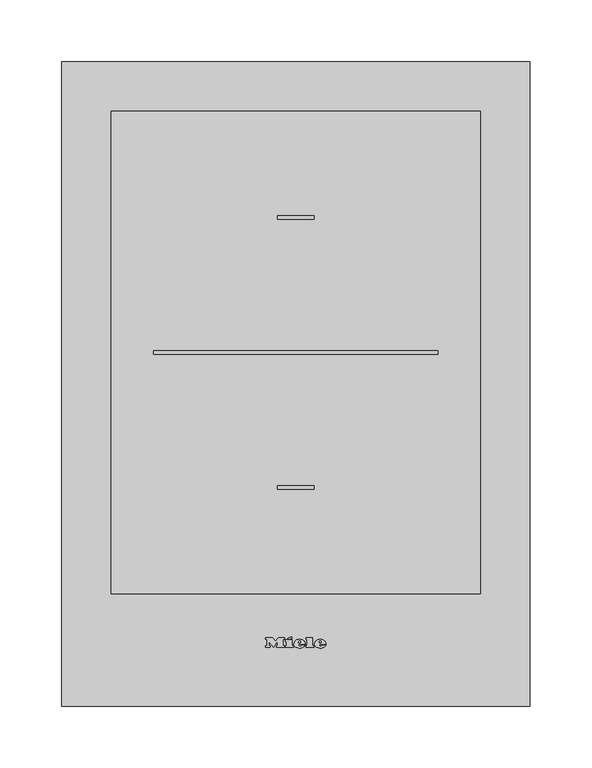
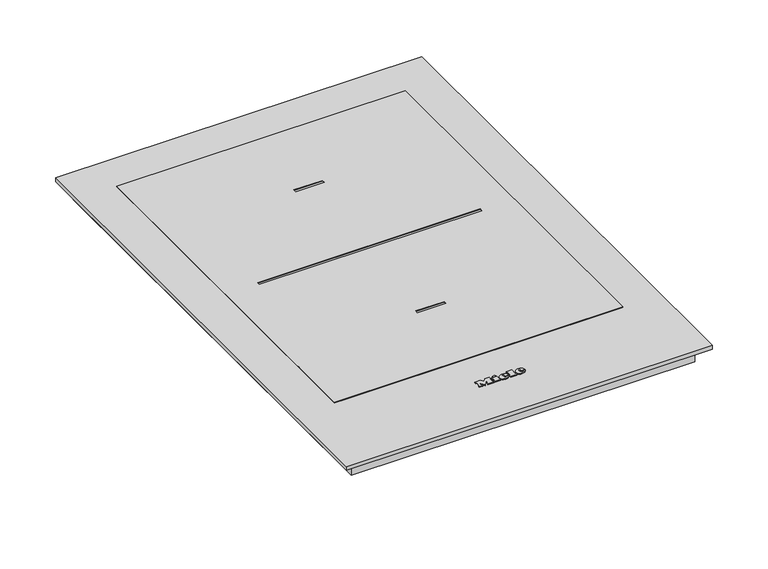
"""IFC4 building model written with IfcOpenShell, lengths in millimetres: proxy geometry, 11073340_CN_CS7612FL : 27761250_CN_11073340_CS7612FL."""

from ifc_helpers import new_model, si_unit, point, frame, frame_2d, origin, origin_with_axes, place, context, project, spatial, polyline, circle_curve, ellipse_curve, trimmed, segment, composite_curve, outline, extrude, source, transform, mapped, element, save
from ifc_brep_helpers import plane_surface, cylinder_surface, revolved_surface, extruded_surface, advanced_brep


def specialty_equipment_ac4bd3e9(model_context):
    return source(origin(), model_context, "Body", "SolidModel", [
        advanced_brep(
        [(19.06, 49.1959995, 4.9919765), (19.06, 50.0039992, 4.9925904), (24.412, 50.0039992, 4.9925904), (15.1, 50.0039992, 4.9925904), (17.3, 47.3, 4.990536), (24.276, 49.1959995, 4.9919765), (21.86, 49.1959995, 4.9919765), (19.956, 48.2999997, 4.9912958), (19.06, 51.0279989, 4.9933684), (19.06, 51.8999987, 4.9940309), (20.428, 51.8999987, 4.9940309), (20.428, 51.0279989, 4.9933684), (19.06, 49.1967592, 3.9919768), (19.956, 48.3007595, 3.9912961), (21.86, 49.1967592, 3.9919768), (24.276, 49.1967592, 3.9919768), (17.3, 47.3007598, 3.9905363), (15.1, 50.004759, 3.9925907), (24.412, 50.004759, 3.9925907), (19.06, 50.004759, 3.9925907), (19.06, 51.0287587, 3.9933687), (20.428, 51.0287587, 3.9933687), (20.428, 51.9007584, 3.9940312), (19.06, 51.9007584, 3.9940312)],
        [
            (0, 1),
            (1, 2),
            (2, 3, ellipse_curve(frame((19.756, 50.0039992, 4.9925904), z_axis=(0.0, -0.0007597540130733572, 0.9999997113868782), x_axis=(-1.0, 0.0, 0.0)), 4.656, 3.848)),
            (3, 4, circle_curve(frame((18.1960436, 50.2759991, 4.9927971), z_axis=(0.0, -0.0007597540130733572, 0.9999997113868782), x_axis=(0.0, -0.9999997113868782, -0.0007597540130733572)), 3.1079688)),
            (4, 5, circle_curve(frame((19.6627936, 52.3879985, 4.9944017), z_axis=(0.0, -0.0007597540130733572, 0.9999997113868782), x_axis=(0.0, -0.9999997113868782, -0.0007597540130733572)), 5.6098607)),
            (5, 6),
            (6, 7, circle_curve(frame((20.3470588, 49.9399992, 4.9925418), z_axis=(0.0, 0.0007597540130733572, -0.9999997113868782), x_axis=(0.0, -0.9999997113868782, -0.0007597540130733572)), 1.6859795)),
            (7, 0, circle_curve(frame((19.956, 49.1959995, 4.9919765), z_axis=(0.0, 0.0007597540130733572, -0.9999997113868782), x_axis=(0.0, -0.9999997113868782, -0.0007597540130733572)), 0.896)),
            (8, 9),
            (9, 10, circle_curve(frame((19.744, 51.8999987, 4.9940309), z_axis=(0.0, 0.0007597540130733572, -0.9999997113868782), x_axis=(0.0, -0.9999997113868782, -0.0007597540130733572)), 0.684)),
            (10, 11),
            (11, 8),
            (12, 13, circle_curve(frame((19.956, 49.1967592, 3.9919768), z_axis=(0.0, -0.0007597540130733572, 0.9999997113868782), x_axis=(0.0, -0.9999997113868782, -0.0007597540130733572)), 0.896)),
            (13, 14, circle_curve(frame((20.3470588, 49.940759, 3.9925421), z_axis=(0.0, -0.0007597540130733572, 0.9999997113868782), x_axis=(0.0, -0.9999997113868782, -0.0007597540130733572)), 1.6859795)),
            (14, 15),
            (15, 16, circle_curve(frame((19.6627936, 52.3887583, 3.994402), z_axis=(0.0, 0.0007597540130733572, -0.9999997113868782), x_axis=(0.0, -0.9999997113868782, -0.0007597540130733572)), 5.6098607)),
            (16, 17, circle_curve(frame((18.1960436, 50.2767589, 3.9927974), z_axis=(0.0, 0.0007597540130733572, -0.9999997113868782), x_axis=(0.0, -0.9999997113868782, -0.0007597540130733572)), 3.1079688)),
            (17, 18, ellipse_curve(frame((19.756, 50.004759, 3.9925907), z_axis=(0.0, 0.0007597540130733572, -0.9999997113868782), x_axis=(-1.0, 0.0, 0.0)), 4.656, 3.848)),
            (18, 19),
            (19, 12),
            (20, 21),
            (21, 22),
            (22, 23, circle_curve(frame((19.744, 51.9007584, 3.9940312), z_axis=(0.0, -0.0007597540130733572, 0.9999997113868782), x_axis=(0.0, -0.9999997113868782, -0.0007597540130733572)), 0.684)),
            (23, 20),
            (0, 12),
            (19, 1),
            (18, 2),
            (5, 15),
            (14, 6),
            (17, 3),
            (13, 7),
            (16, 4),
            (8, 20),
            (23, 9),
            (22, 10),
            (21, 11),
        ],
        [
            plane_surface(frame((19.06, 50.0039992, 4.9925904), z_axis=(0.0, -0.0007597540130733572, 0.9999997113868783), x_axis=(0.0, 0.9999997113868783, 0.0007597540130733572))),
            plane_surface(frame((19.06, 50.004759, 3.9925907), z_axis=(0.0, 0.0007597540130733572, -0.9999997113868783), x_axis=(0.0, -0.9999997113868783, -0.0007597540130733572))),
            plane_surface(frame((19.06, 49.1959995, 4.9919765), z_axis=(1.0, 0.0, 0.0), x_axis=(0.0, 0.0007597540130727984, -0.9999997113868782))),
            plane_surface(frame((19.06, 50.0039992, 4.9925904), z_axis=(0.0, -0.9999997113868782, -0.0007597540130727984), x_axis=(0.0, 0.0007597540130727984, -0.9999997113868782))),
            plane_surface(frame((24.276, 49.1959995, 4.9919765), z_axis=(0.0, 0.9999997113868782, 0.0007597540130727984), x_axis=(0.0, 0.0007597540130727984, -0.9999997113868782))),
            extruded_surface(trimmed(ellipse_curve(frame((19.756, 50.0055187, 2.992591), z_axis=(0.0, -0.0007597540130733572, 0.9999997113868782), x_axis=(-1.0, 0.0, 0.0)), 4.656, 3.848), [point((24.412, 50.0055187, 2.992591))], [point((15.1, 50.0055187, 2.992591))], True, "CARTESIAN"), (0.0, -0.0007597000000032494, 0.9999997), 0.9999999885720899),
            revolved_surface(polyline([(20.3470588, 48.25477998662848, 3.9912611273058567), (20.3470588, 48.25402023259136, 4.991260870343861)]), (20.3470588, 49.940759, 3.9925421), (0.0, 0.0007597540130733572, -0.9999997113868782)),
            revolved_surface(polyline([(19.956, 48.30075945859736, 3.9912960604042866), (19.956, 48.29999970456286, 4.991295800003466)]), (19.956, 49.1967592, 3.9919768), (0.0, 0.0007597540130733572, -0.9999997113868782)),
            cylinder_surface(frame((18.1960436, 50.2767589, 3.9927974), z_axis=(0.0, -0.0007597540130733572, 0.9999997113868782), x_axis=(0.0, -0.9999997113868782, -0.0007597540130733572)), 3.1079688),
            cylinder_surface(frame((19.6627936, 52.3887583, 3.994402), z_axis=(0.0, -0.0007597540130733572, 0.9999997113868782), x_axis=(0.0, -0.9999997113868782, -0.0007597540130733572)), 5.6098607),
            plane_surface(frame((19.06, 51.0279989, 4.9933684), z_axis=(1.0, 0.0, 0.0), x_axis=(0.0, 0.0007597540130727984, -0.9999997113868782))),
            revolved_surface(polyline([(19.744, 51.21675859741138, 3.9935115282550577), (19.744, 51.215998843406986, 4.993511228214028)]), (19.744, 51.9007584, 3.9940312), (0.0, 0.0007597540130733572, -0.9999997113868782)),
            plane_surface(frame((20.428, 51.8999987, 4.9940309), z_axis=(-1.0, 0.0, 0.0), x_axis=(0.0, 0.0007597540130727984, -0.9999997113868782))),
            plane_surface(frame((20.428, 51.0279989, 4.9933684), z_axis=(0.0, 0.9999997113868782, 0.0007597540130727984), x_axis=(0.0, 0.0007597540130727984, -0.9999997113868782))),
        ],
        [
            (0, [[1, 2, 3, 4, 5, 6, 7, 8], [9, 10, 11, 12]]),
            (1, [[13, 14, 15, 16, 17, 18, 19, 20], [21, 22, 23, 24]]),
            (2, [[-1, 25, -20, 26]]),
            (3, [[-2, -26, -19, 27]]),
            (4, [[-6, 28, -15, 29]]),
            (5, [[-3, -27, -18, 30]]),
            (6, [[-7, -29, -14, 31]]),
            (7, [[-8, -31, -13, -25]]),
            (8, [[-4, -30, -17, 32]]),
            (9, [[-5, -32, -16, -28]]),
            (10, [[-9, 33, -24, 34]]),
            (11, [[-10, -34, -23, 35]]),
            (12, [[-11, -35, -22, 36]]),
            (13, [[-12, -36, -21, -33]]),
        ],
    ),
        advanced_brep(
        [(2.364, 49.1959995, 4.9919765), (2.364, 50.0039992, 4.9925904), (7.716, 50.0039992, 4.9925904), (-1.596, 50.0039992, 4.9925904), (0.604, 47.3, 4.990536), (7.58, 49.1959995, 4.9919765), (5.164, 49.1959995, 4.9919765), (3.26, 48.2999997, 4.9912958), (2.364, 51.0279989, 4.9933684), (2.364, 51.8999987, 4.9940309), (3.732, 51.8999987, 4.9940309), (3.732, 51.0279989, 4.9933684), (2.364, 49.1967592, 3.9919768), (3.26, 48.3007595, 3.9912961), (5.164, 49.1967592, 3.9919768), (7.58, 49.1967592, 3.9919768), (0.604, 47.3007598, 3.9905363), (-1.596, 50.004759, 3.9925907), (7.716, 50.004759, 3.9925907), (2.364, 50.004759, 3.9925907), (2.364, 51.0287587, 3.9933687), (3.732, 51.0287587, 3.9933687), (3.732, 51.9007584, 3.9940312), (2.364, 51.9007584, 3.9940312)],
        [
            (0, 1),
            (1, 2),
            (2, 3, ellipse_curve(frame((3.06, 50.0039992, 4.9925904), z_axis=(0.0, -0.0007597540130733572, 0.9999997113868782), x_axis=(-1.0, 0.0, 0.0)), 4.656, 3.848)),
            (3, 4, circle_curve(frame((1.5000436, 50.2759991, 4.9927971), z_axis=(0.0, -0.0007597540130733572, 0.9999997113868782), x_axis=(0.0, -0.9999997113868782, -0.0007597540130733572)), 3.1079688)),
            (4, 5, circle_curve(frame((2.9667936, 52.3879985, 4.9944017), z_axis=(0.0, -0.0007597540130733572, 0.9999997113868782), x_axis=(0.0, -0.9999997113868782, -0.0007597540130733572)), 5.6098607)),
            (5, 6),
            (6, 7, circle_curve(frame((3.6510588, 49.9399992, 4.9925418), z_axis=(0.0, 0.0007597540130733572, -0.9999997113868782), x_axis=(0.0, -0.9999997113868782, -0.0007597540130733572)), 1.6859795)),
            (7, 0, circle_curve(frame((3.26, 49.1959995, 4.9919765), z_axis=(0.0, 0.0007597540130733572, -0.9999997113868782), x_axis=(0.0, -0.9999997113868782, -0.0007597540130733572)), 0.896)),
            (8, 9),
            (9, 10, circle_curve(frame((3.048, 51.8999987, 4.9940309), z_axis=(0.0, 0.0007597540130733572, -0.9999997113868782), x_axis=(0.0, -0.9999997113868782, -0.0007597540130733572)), 0.684)),
            (10, 11),
            (11, 8),
            (12, 13, circle_curve(frame((3.26, 49.1967592, 3.9919768), z_axis=(0.0, -0.0007597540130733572, 0.9999997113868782), x_axis=(0.0, -0.9999997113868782, -0.0007597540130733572)), 0.896)),
            (13, 14, circle_curve(frame((3.6510588, 49.940759, 3.9925421), z_axis=(0.0, -0.0007597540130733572, 0.9999997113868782), x_axis=(0.0, -0.9999997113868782, -0.0007597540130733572)), 1.6859795)),
            (14, 15),
            (15, 16, circle_curve(frame((2.9667936, 52.3887583, 3.994402), z_axis=(0.0, 0.0007597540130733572, -0.9999997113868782), x_axis=(0.0, -0.9999997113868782, -0.0007597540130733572)), 5.6098607)),
            (16, 17, circle_curve(frame((1.5000436, 50.2767589, 3.9927974), z_axis=(0.0, 0.0007597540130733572, -0.9999997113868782), x_axis=(0.0, -0.9999997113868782, -0.0007597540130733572)), 3.1079688)),
            (17, 18, ellipse_curve(frame((3.06, 50.004759, 3.9925907), z_axis=(0.0, 0.0007597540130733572, -0.9999997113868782), x_axis=(-1.0, 0.0, 0.0)), 4.656, 3.848)),
            (18, 19),
            (19, 12),
            (20, 21),
            (21, 22),
            (22, 23, circle_curve(frame((3.048, 51.9007584, 3.9940312), z_axis=(0.0, -0.0007597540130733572, 0.9999997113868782), x_axis=(0.0, -0.9999997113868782, -0.0007597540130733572)), 0.684)),
            (23, 20),
            (0, 12),
            (19, 1),
            (18, 2),
            (5, 15),
            (14, 6),
            (17, 3),
            (13, 7),
            (16, 4),
            (8, 20),
            (23, 9),
            (22, 10),
            (21, 11),
        ],
        [
            plane_surface(frame((2.364, 50.0039992, 4.9925904), z_axis=(0.0, -0.0007597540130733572, 0.9999997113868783), x_axis=(0.0, 0.9999997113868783, 0.0007597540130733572))),
            plane_surface(frame((2.364, 50.004759, 3.9925907), z_axis=(0.0, 0.0007597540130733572, -0.9999997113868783), x_axis=(0.0, -0.9999997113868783, -0.0007597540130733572))),
            plane_surface(frame((2.364, 49.1959995, 4.9919765), z_axis=(1.0, 0.0, 0.0), x_axis=(0.0, 0.0007597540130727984, -0.9999997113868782))),
            plane_surface(frame((2.364, 50.0039992, 4.9925904), z_axis=(0.0, -0.9999997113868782, -0.0007597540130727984), x_axis=(0.0, 0.0007597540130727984, -0.9999997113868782))),
            plane_surface(frame((7.58, 49.1959995, 4.9919765), z_axis=(0.0, 0.9999997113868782, 0.0007597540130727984), x_axis=(0.0, 0.0007597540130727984, -0.9999997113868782))),
            extruded_surface(trimmed(ellipse_curve(frame((3.06, 50.0055187, 2.992591), z_axis=(0.0, -0.0007597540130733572, 0.9999997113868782), x_axis=(-1.0, 0.0, 0.0)), 4.656, 3.848), [point((7.716, 50.0055187, 2.992591))], [point((-1.596, 50.0055187, 2.992591))], True, "CARTESIAN"), (0.0, -0.0007597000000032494, 0.9999997), 0.9999999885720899),
            revolved_surface(polyline([(3.6510588, 48.25477998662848, 3.9912611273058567), (3.6510588, 48.25402023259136, 4.991260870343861)]), (3.6510588, 49.940759, 3.9925421), (0.0, 0.0007597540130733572, -0.9999997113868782)),
            revolved_surface(polyline([(3.26, 48.30075945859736, 3.9912960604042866), (3.26, 48.29999970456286, 4.991295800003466)]), (3.26, 49.1967592, 3.9919768), (0.0, 0.0007597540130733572, -0.9999997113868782)),
            cylinder_surface(frame((1.5000436, 50.2767589, 3.9927974), z_axis=(0.0, -0.0007597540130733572, 0.9999997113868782), x_axis=(0.0, -0.9999997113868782, -0.0007597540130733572)), 3.1079688),
            cylinder_surface(frame((2.9667936, 52.3887583, 3.994402), z_axis=(0.0, -0.0007597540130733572, 0.9999997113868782), x_axis=(0.0, -0.9999997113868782, -0.0007597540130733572)), 5.6098607),
            plane_surface(frame((2.364, 51.0279989, 4.9933684), z_axis=(1.0, 0.0, 0.0), x_axis=(0.0, 0.0007597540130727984, -0.9999997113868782))),
            revolved_surface(polyline([(3.048, 51.21675859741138, 3.9935115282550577), (3.048, 51.215998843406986, 4.993511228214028)]), (3.048, 51.9007584, 3.9940312), (0.0, 0.0007597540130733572, -0.9999997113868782)),
            plane_surface(frame((3.732, 51.8999987, 4.9940309), z_axis=(-1.0, 0.0, 0.0), x_axis=(0.0, 0.0007597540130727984, -0.9999997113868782))),
            plane_surface(frame((3.732, 51.0279989, 4.9933684), z_axis=(0.0, 0.9999997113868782, 0.0007597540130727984), x_axis=(0.0, 0.0007597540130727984, -0.9999997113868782))),
        ],
        [
            (0, [[1, 2, 3, 4, 5, 6, 7, 8], [9, 10, 11, 12]]),
            (1, [[13, 14, 15, 16, 17, 18, 19, 20], [21, 22, 23, 24]]),
            (2, [[-1, 25, -20, 26]]),
            (3, [[-2, -26, -19, 27]]),
            (4, [[-6, 28, -15, 29]]),
            (5, [[-3, -27, -18, 30]]),
            (6, [[-7, -29, -14, 31]]),
            (7, [[-8, -31, -13, -25]]),
            (8, [[-4, -30, -17, 32]]),
            (9, [[-5, -32, -16, -28]]),
            (10, [[-9, 33, -24, 34]]),
            (11, [[-10, -34, -23, 35]]),
            (12, [[-11, -35, -22, 36]]),
            (13, [[-12, -36, -21, -33]]),
        ],
    ),
        extrude(outline(polyline([(0.0, 0.0), (-0.0109086, -2.9993294), (-1.4390415, -2.9920868), (-1.4315306, 0.0), (0.0, 0.0)])), frame((-6.38, 54.8287576, 3.9962558), z_axis=(0.0, -0.0007597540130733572, 0.9999997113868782), x_axis=(-0.42472021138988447, 0.9053243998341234, 0.0006878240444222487)), (0.0, 0.0, 1.0), 1.0),
        extrude(outline(polyline([(-0.4933908, 2.4141097), (-2.7800844, -2.4601583), (-7.0459742, -0.4588767), (-7.4401145, -1.2990179), (-8.6568709, -0.728194), (-5.9760369, 4.9862153), (-4.7592806, 4.4153913), (-5.1636142, 3.5535222), (-2.1941494, 2.16044), (-1.7898157, 3.022309), (-0.4933908, 2.4141097)])), frame((-6.38, 54.8287576, 3.9962558), z_axis=(0.0, -0.0007597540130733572, 0.9999997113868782), x_axis=(-0.42472021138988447, 0.9053243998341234, 0.0006878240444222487)), (0.0, 0.0, 1.0), 1.0),
        extrude(outline(polyline([(0.0, 0.0), (0.0, -1.304), (-5.504, -1.304), (-5.504, 5.3519999), (-6.488, 5.3519999), (-6.488, 6.6959999), (0.0, 6.6959999), (0.0, 5.3519999), (-0.96, 5.3519999), (-0.96, 0.0), (0.0, 0.0)])), frame((8.164, 53.9967578, 3.9956236), z_axis=(0.0, -0.0007597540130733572, 0.9999997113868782), x_axis=(-1.0, 0.0, 0.0)), (0.0, 0.0, 1.0), 1.0),
        extrude(outline(polyline([(0.0, 0.0), (0.0, -1.304), (-5.576, -1.304), (-7.92, 1.696), (-10.256, -1.304), (-15.128, -1.304), (-15.128, 0.0), (-14.112, 0.0), (-14.112, 5.3519999), (-15.128, 5.3519999), (-15.128, 6.6959999), (-8.744, 6.6959999), (-8.744, 5.3519999), (-9.728, 5.3519999), (-9.728, 1.8807776), (-6.136, 6.6959999), (-2.56, 1.9488753), (-2.56, 5.3519999), (-3.52, 5.3519999), (-3.52, 6.6959999), (0.0, 6.6959999), (0.0, 5.3519999), (-0.968, 5.3519999), (-0.968, 0.0), (0.0, 0.0)])), frame((-24.3, 53.9967578, 3.9956236), z_axis=(0.0, -0.0007597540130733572, 0.9999997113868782), x_axis=(-1.0, 0.0, 0.0)), (0.0, 0.0, 1.0), 1.0),
        extrude(outline(polyline([(189.0, 520.0), (189.0, 0.0), (-189.0, 0.0), (-189.0, 520.0), (189.0, 520.0)])), origin_with_axes(), (0.0, 0.0, 1.0), 4.0),
        extrude(outline(polyline([(177.5, 508.5), (177.5, 11.5), (-177.5, 11.5), (-177.5, 508.5), (177.5, 508.5)])), frame((0.0, 0.0, -16.8), z_axis=(0.0, 0.0, 1.0), x_axis=(1.0, 0.0, 0.0)), (0.0, 0.0, 1.0), 16.8),
        extrude(outline(polyline([(149.0, 480.0), (149.0, 90.8), (-149.0, 90.8), (-149.0, 480.0), (149.0, 480.0)]), holes=[polyline([(14.7, 395.95), (-14.7, 395.95), (-14.7, 392.85), (14.7, 392.85), (14.7, 395.95)]), polyline([(115.0, 286.95), (-115.0, 286.95), (-115.0, 283.85), (115.0, 283.85), (115.0, 286.95)]), polyline([(14.7, 177.95), (-14.7, 177.95), (-14.7, 174.85), (14.7, 174.85), (14.7, 177.95)])]), frame((0.0, 0.0, 4.0), z_axis=(0.0, 0.0, 1.0), x_axis=(1.0, 0.0, 0.0)), (0.0, 0.0, 1.0), 1.0),
        extrude(outline(polyline([(435.3772603, -29.3), (428.0, -29.3), (428.0, -28.0442961), (434.1215564, -28.0442961), (434.1215564, -24.7480734), (428.470889, -24.7480734), (428.470889, -23.4923696), (434.1215564, -23.4923696), (434.1215564, -20.5100729), (428.156963, -20.5100729), (428.156963, -19.254369), (435.3772603, -19.254369), (435.3772603, -29.3)])), frame((-150.0, 0.0, 0.0), z_axis=(1.0, 0.0, 0.0), x_axis=(0.0, 1.0, 0.0)), (0.0, 0.0, 1.0), 1.0),
        extrude(outline(polyline([(426.1164442, -29.3), (419.8379248, -29.3), (419.8379248, -28.0442961), (424.8607403, -28.0442961), (424.8607403, -19.254369), (426.1164442, -19.254369), (426.1164442, -29.3)])), frame((-150.0, 0.0, 0.0), z_axis=(1.0, 0.0, 0.0), x_axis=(0.0, 1.0, 0.0)), (0.0, 0.0, 1.0), 1.0),
        extrude(outline(composite_curve([segment(trimmed(circle_curve(frame_2d((428.0, -24.3)), 7.5), [point((428.0, -31.8))], [point((428.0, -16.8))], False, "CARTESIAN"), True, "CONTINUOUS"), segment(trimmed(circle_curve(frame_2d((428.0, -24.3)), 7.5), [point((428.0, -16.8))], [point((428.0, -31.8))], False, "CARTESIAN"), True, "CONTINUOUS")], self_intersect=False)), frame((-149.0, 0.0, 0.0), z_axis=(1.0, 0.0, 0.0), x_axis=(0.0, 1.0, 0.0)), (0.0, 0.0, 1.0), 30.0),
        extrude(outline(polyline([(-119.0, 91.3), (-119.0, 468.3), (119.0, 468.3), (119.0, 433.7), (153.5, 433.7), (153.5, 183.5), (119.0, 183.5), (119.0, 91.3), (-119.0, 91.3)])), frame((0.0, 0.0, -46.5), z_axis=(0.0, 0.0, 1.0), x_axis=(1.0, 0.0, 0.0)), (0.0, 0.0, 1.0), 29.7),
    ])


if __name__ == "__main__":
    model = new_model("IFC4")
    model_context = context("Model", 3, world=origin())
    ifc_project = project(units=[si_unit("LENGTHUNIT", "METRE", prefix="MILLI")], contexts=[model_context])
    site = spatial("IfcSite", under=ifc_project)
    building = spatial("IfcBuilding", under=site)
    placement = place(None, origin())
    specialty_equipment_shape = specialty_equipment_ac4bd3e9(model_context)
    element("IfcBuildingElementProxy", 1, Name="11073340_CN_CS7612FL : 27761250_CN_11073340_CS7612FL", ObjectType="11073340_CN_CS7612FL : 27761250_CN_11073340_CS7612FL", at=placement, inside=building, context=model_context, shape_type="MappedRepresentation", body=[
        mapped(specialty_equipment_shape, transform((0.0, 0.0, 0.0), x_axis=(1.0, 0.0, 0.0), y_axis=(0.0, 1.0, 0.0), z_axis=(0.0, 0.0, 1.0))),
    ])
    save(model, "model.ifc")
